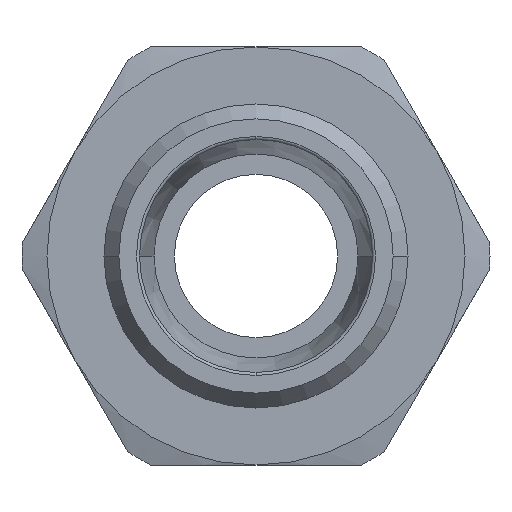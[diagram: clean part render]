
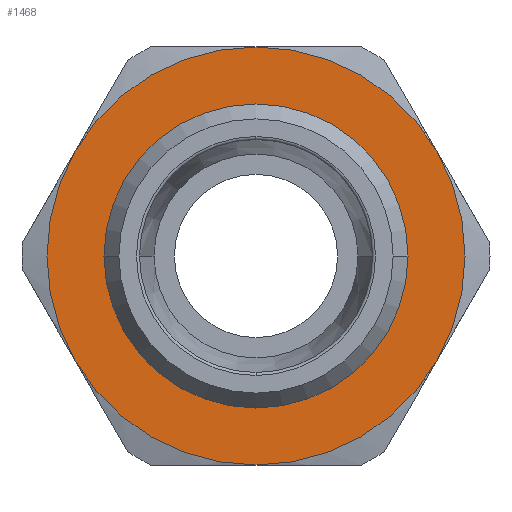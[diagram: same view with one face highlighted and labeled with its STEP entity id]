
A CAD part, left-side view. The second image highlights one B-rep face of the part: STEP entity #1468.
In plain terms, the highlighted planar face has unit normal (-1, 0, 0) as drawn and (0, 0, 1) by its records, which use the part's own axes.
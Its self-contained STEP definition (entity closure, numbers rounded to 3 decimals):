
#626=CARTESIAN_POINT('',(-14.65,0.,6.0));
#627=VERTEX_POINT('',#626);
#653=CARTESIAN_POINT('',(14.65,0.,6.0));
#654=VERTEX_POINT('',#653);
#662=CARTESIAN_POINT('',(0.,0.,6.0));
#663=DIRECTION('',(0.0,0.0,1.0));
#664=DIRECTION('',(-1.0,0.0,0.0));
#665=AXIS2_PLACEMENT_3D('',#662,#663,#664);
#666=CIRCLE('',#665,14.65);
#667=EDGE_CURVE('',#654,#627,#666,.T.);
#1348=CARTESIAN_POINT('',(0.,-14.65,6.));
#1349=VERTEX_POINT('',#1348);
#1350=CARTESIAN_POINT('',(0.,0.,6.0));
#1351=DIRECTION('',(0.0,0.0,1.0));
#1352=DIRECTION('',(-1.0,0.0,0.0));
#1353=AXIS2_PLACEMENT_3D('',#1350,#1351,#1352);
#1354=CIRCLE('',#1353,14.65);
#1355=EDGE_CURVE('',#627,#1349,#1354,.T.);
#1357=CARTESIAN_POINT('',(0.,0.,6.0));
#1358=DIRECTION('',(0.0,0.0,1.0));
#1359=DIRECTION('',(-1.0,0.0,0.0));
#1360=AXIS2_PLACEMENT_3D('',#1357,#1358,#1359);
#1361=CIRCLE('',#1360,14.65);
#1362=EDGE_CURVE('',#1349,#654,#1361,.T.);
#1402=CARTESIAN_POINT('',(0.,0.,6.0));
#1403=DIRECTION('',(0.0,0.0,1.0));
#1404=DIRECTION('',(1.0,0.0,0.0));
#1405=AXIS2_PLACEMENT_3D('',#1402,#1403,#1404);
#1406=PLANE('',#1405);
#1407=CARTESIAN_POINT('',(10.25,-17.754,6.0));
#1408=VERTEX_POINT('',#1407);
#1409=CARTESIAN_POINT('',(20.5,0.0,6.0));
#1410=VERTEX_POINT('',#1409);
#1411=CARTESIAN_POINT('',(0.,0.0,6.0));
#1412=DIRECTION('',(0.0,0.0,1.0));
#1413=DIRECTION('',(1.0,0.0,0.0));
#1414=AXIS2_PLACEMENT_3D('',#1411,#1412,#1413);
#1415=CIRCLE('',#1414,20.5);
#1416=EDGE_CURVE('',#1408,#1410,#1415,.T.);
#1417=ORIENTED_EDGE('',*,*,#1416,.T.);
#1418=CARTESIAN_POINT('',(10.25,17.754,6.0));
#1419=VERTEX_POINT('',#1418);
#1420=CARTESIAN_POINT('',(0.,0.0,6.0));
#1421=DIRECTION('',(0.0,0.0,1.0));
#1422=DIRECTION('',(1.0,0.0,0.0));
#1423=AXIS2_PLACEMENT_3D('',#1420,#1421,#1422);
#1424=CIRCLE('',#1423,20.5);
#1425=EDGE_CURVE('',#1410,#1419,#1424,.T.);
#1426=ORIENTED_EDGE('',*,*,#1425,.T.);
#1427=CARTESIAN_POINT('',(-10.25,17.754,6.0));
#1428=VERTEX_POINT('',#1427);
#1429=CARTESIAN_POINT('',(0.,0.0,6.0));
#1430=DIRECTION('',(0.0,0.0,1.0));
#1431=DIRECTION('',(1.0,0.0,0.0));
#1432=AXIS2_PLACEMENT_3D('',#1429,#1430,#1431);
#1433=CIRCLE('',#1432,20.5);
#1434=EDGE_CURVE('',#1419,#1428,#1433,.T.);
#1435=ORIENTED_EDGE('',*,*,#1434,.T.);
#1436=CARTESIAN_POINT('',(-20.5,0.,6.0));
#1437=VERTEX_POINT('',#1436);
#1438=CARTESIAN_POINT('',(0.,0.0,6.0));
#1439=DIRECTION('',(0.0,0.0,1.0));
#1440=DIRECTION('',(1.0,0.0,0.0));
#1441=AXIS2_PLACEMENT_3D('',#1438,#1439,#1440);
#1442=CIRCLE('',#1441,20.5);
#1443=EDGE_CURVE('',#1428,#1437,#1442,.T.);
#1444=ORIENTED_EDGE('',*,*,#1443,.T.);
#1445=CARTESIAN_POINT('',(-10.25,-17.754,6.0));
#1446=VERTEX_POINT('',#1445);
#1447=CARTESIAN_POINT('',(0.,0.0,6.0));
#1448=DIRECTION('',(0.0,0.0,1.0));
#1449=DIRECTION('',(1.0,0.0,0.0));
#1450=AXIS2_PLACEMENT_3D('',#1447,#1448,#1449);
#1451=CIRCLE('',#1450,20.5);
#1452=EDGE_CURVE('',#1437,#1446,#1451,.T.);
#1453=ORIENTED_EDGE('',*,*,#1452,.T.);
#1454=CARTESIAN_POINT('',(0.,0.0,6.0));
#1455=DIRECTION('',(0.0,0.0,1.0));
#1456=DIRECTION('',(1.0,0.0,0.0));
#1457=AXIS2_PLACEMENT_3D('',#1454,#1455,#1456);
#1458=CIRCLE('',#1457,20.5);
#1459=EDGE_CURVE('',#1446,#1408,#1458,.T.);
#1460=ORIENTED_EDGE('',*,*,#1459,.T.);
#1461=EDGE_LOOP('',(#1417,#1426,#1435,#1444,#1453,#1460));
#1462=FACE_OUTER_BOUND('',#1461,.T.);
#1463=ORIENTED_EDGE('',*,*,#1362,.F.);
#1464=ORIENTED_EDGE('',*,*,#1355,.F.);
#1465=ORIENTED_EDGE('',*,*,#667,.F.);
#1466=EDGE_LOOP('',(#1463,#1464,#1465));
#1467=FACE_BOUND('',#1466,.T.);
#1468=ADVANCED_FACE('',(#1462,#1467),#1406,.T.);
